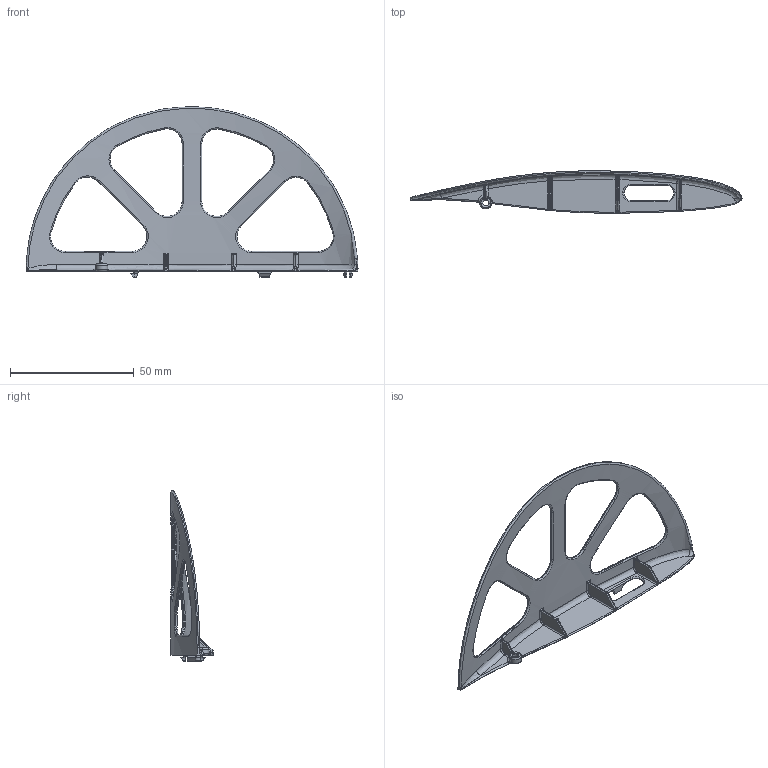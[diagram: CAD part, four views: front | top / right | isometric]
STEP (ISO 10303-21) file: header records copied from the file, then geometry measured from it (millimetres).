
FILE_DESCRIPTION (( 'STEP AP203' ), '1' );
FILE_NAME ('06-12-005-00.STEP', '2019-02-25T09:14:42', ( '' ), ( '' ), 'SwSTEP 2.0', 'SolidWorks 2014', '' );
FILE_SCHEMA (( 'CONFIG_CONTROL_DESIGN' ));
Length unit declared in the file: millimetre
Products named in the file (1): 06-12-005-00
Bounding box: 134.04 x 17.02 x 68.88 mm (x, y, z)
Volume: 6122.4 mm3; surface area: 11813.7 mm2
Topology: 1 solids, 1 shells, 301 faces, 743 edges, 437 vertices
Faces by surface type: bspline 126, cylinder 84, plane 64, torus 22, cone 3, sphere 2
Entity records: 14772 total; most frequent: CARTESIAN_POINT 8619, ORIENTED_EDGE 1466, DIRECTION 994, EDGE_CURVE 733, VERTEX_POINT 436, AXIS2_PLACEMENT_3D 391, EDGE_LOOP 315, ADVANCED_FACE 301
